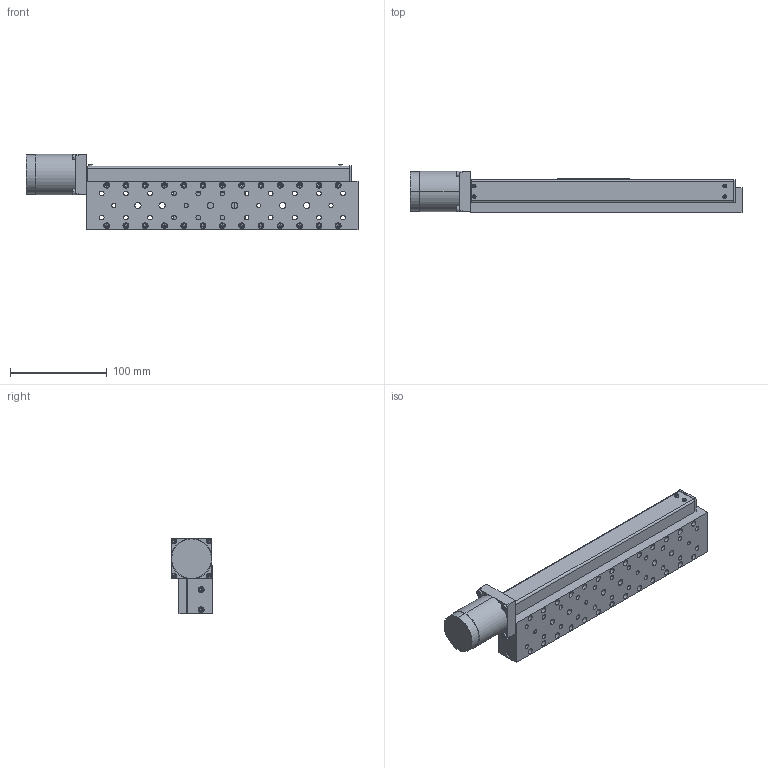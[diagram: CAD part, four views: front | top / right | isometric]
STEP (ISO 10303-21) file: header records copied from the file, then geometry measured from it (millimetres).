
FILE_DESCRIPTION (( 'STEP AP203' ), '1' );
FILE_NAME ('8MT175V-200-VSS42.STEP', '2012-01-23T12:47:12', ( 'Darius' ), ( '' ), 'SwSTEP 2.0', 'SolidWorks 2003240', '' );
FILE_SCHEMA (( 'CONFIG_CONTROL_DESIGN' ));
Products named in the file (1): 8MT175V-200-VSS42
Bounding box: 344 x 43 x 78 mm (x, y, z)
Volume: 497395.7 mm3; surface area: 115216.2 mm2
Topology: 1 solids, 45 shells, 1396 faces, 3528 edges, 2276 vertices
Faces by surface type: plane 609, cylinder 447, bspline 254, cone 86
Entity records: 47964 total; most frequent: CARTESIAN_POINT 15593, ORIENTED_EDGE 6884, DIRECTION 6245, EDGE_CURVE 3442, AXIS2_PLACEMENT_3D 2320, VERTEX_POINT 2276, EDGE_LOOP 1710, LINE 1605
